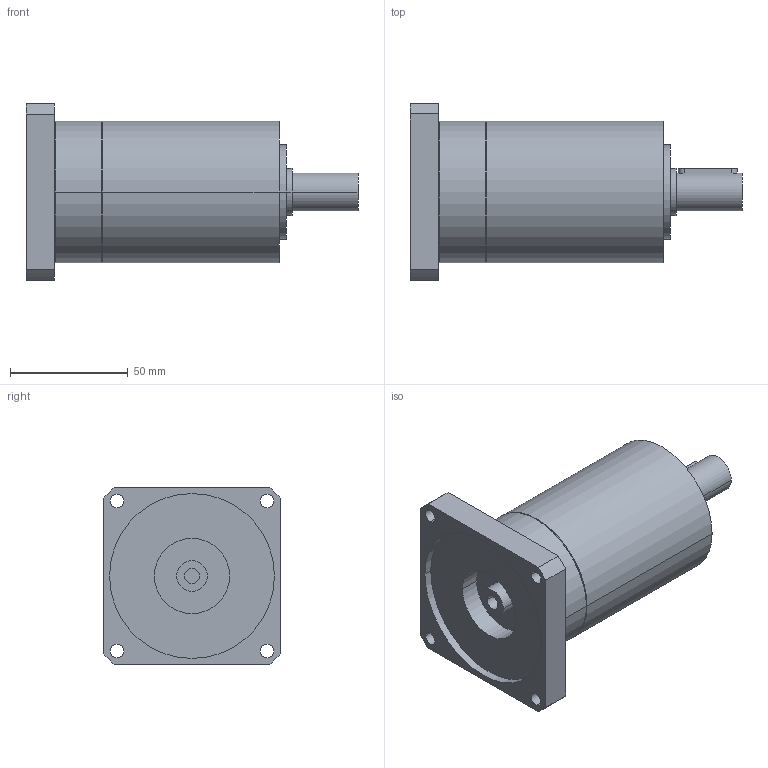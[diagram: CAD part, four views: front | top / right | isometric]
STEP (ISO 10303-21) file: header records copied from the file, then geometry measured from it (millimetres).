
FILE_DESCRIPTION(('CoCreate Modeling STEP Export'),'2;1');
FILE_NAME('GPR75_ig-9-12-16-20-24-30-36_16_B14_6.35_P24.stp','2014-08-25T16:04:15',(''),(''),'CoCreate Modeling STEP processor for AP214 (Solid Model)','CoCreate Modeling 16.00C 25-Feb-2009 (C) Parametric Technology GmbH','');
FILE_SCHEMA(('AUTOMOTIVE_DESIGN { 1 0 10303 214 1 1 1 1 }'));
Length unit declared in the file: millimetre
Products named in the file (2): GPR75_ig-9-12-16-20-24-30-36_16_B14_6.35_P24
Assembly tree (1 placements, depth 2):
  GPR75_ig-9-12-16-20-24-30-36_16_B14_6.35_P24
    GPR75_ig-9-12-16-20-24-30-36_16_B14_6.35_P24
Bounding box: 141 x 75 x 75 mm (x, y, z)
Volume: 324914 mm3; surface area: 42457.7 mm2
Topology: 1 solids, 1 shells, 73 faces, 196 edges, 138 vertices
Faces by surface type: cylinder 44, plane 23, cone 6
Entity records: 2014 total; most frequent: ORIENTED_EDGE 388, CARTESIAN_POINT 372, DIRECTION 272, EDGE_CURVE 194, VERTEX_POINT 138, AXIS2_PLACEMENT_3D 102, EDGE_LOOP 96, FACE_OUTER_BOUND 73
